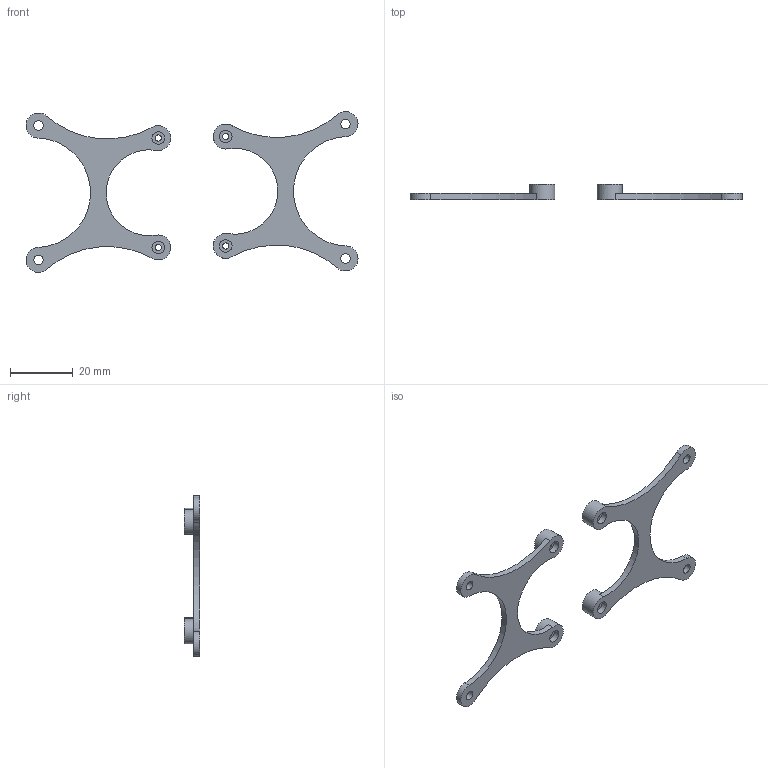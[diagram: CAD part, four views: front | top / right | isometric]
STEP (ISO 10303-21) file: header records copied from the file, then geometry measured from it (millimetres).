
FILE_DESCRIPTION(/* description */ ('STEP AP242','CAx-IF Rec.Pracs.---Representation and Presentation of Product Manufacturing Information (PMI)---4.0---2014-10-13','CAx-IF Rec.Pracs.---3D Tessellated Geometry---0.4---2014-09-14','2;1'),/* implementation_level */ '2;1');
FILE_NAME(/* name */ '67b61403c5fed027b9f91ba4',/* time_stamp */ '2025-02-19T17:25:24Z',/* author */ (''),/* organization */ (''),/* preprocessor_version */ 'ST-DEVELOPER v20',/* originating_system */ 'ONSHAPE BY PTC INC, 1.193',/* authorisation */ ' ');
FILE_SCHEMA (('AP242_MANAGED_MODEL_BASED_3D_ENGINEERING_MIM_LF { 1 0 10303 442 1 1 4 }'));
Length unit declared in the file: metre
Products named in the file (2): Part 1; Part 2
Bounding box: 106.2 x 5 x 51.47 mm (x, y, z)
Volume: 3502.1 mm3; surface area: 4503.8 mm2
Topology: 2 solids, 2 shells, 40 faces, 98 edges, 66 vertices
Faces by surface type: cylinder 28, plane 12
Full cylindrical faces by diameter (mm): 2 x4, 3 x4, 4 x4, 8 x4
Entity records: 1164 total; most frequent: DIRECTION 220, CARTESIAN_POINT 178, ORIENTED_EDGE 152, AXIS2_PLACEMENT_3D 102, EDGE_CURVE 76, EDGE_LOOP 76, FACE_BOUND 76, VERTEX_POINT 60
